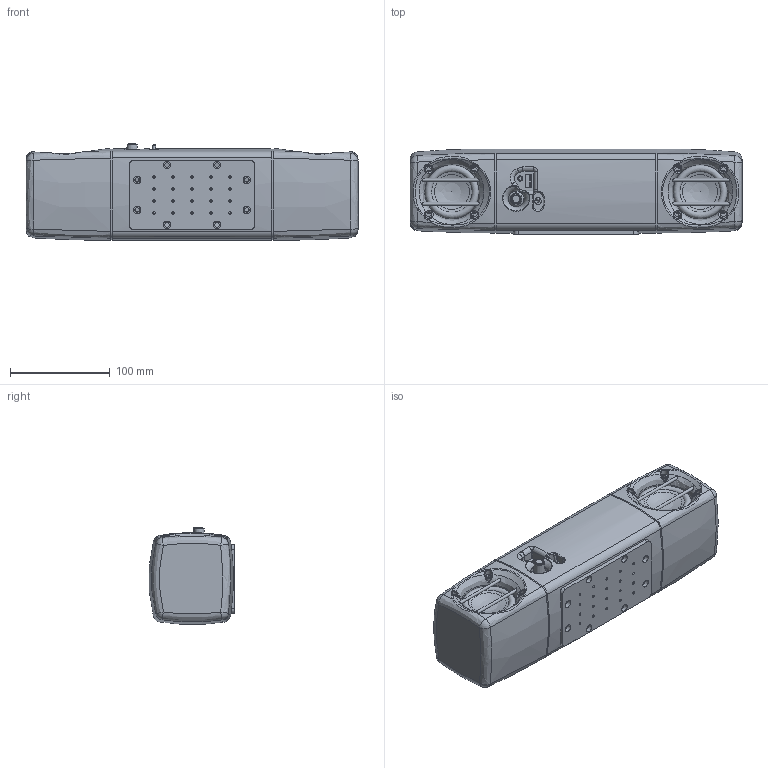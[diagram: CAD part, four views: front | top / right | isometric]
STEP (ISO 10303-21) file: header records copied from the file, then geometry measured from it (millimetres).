
FILE_DESCRIPTION(/* description */ (''),/* implementation_level */ '2;1');
FILE_NAME(/* name */ 'C:/Users/eetus/OneDrive/Tiedostot/Fusion 360 tiedostot 2.0/Mini speaker files/Mini speaker assembly.step',/* time_stamp */ '2021-01-24T18:22:37+02:00',/* author */ (''),/* organization */ (''),/* preprocessor_version */ 'ST-DEVELOPER v18.1',/* originating_system */ 'Autodesk Translation Framework v9.7.1.1290',/* authorisation */ '');
FILE_SCHEMA (('AUTOMOTIVE_DESIGN { 1 0 10303 214 3 1 1 }'));
Products named in the file (14): Mini speaker; ND65-8 speaker; Speaker end enclosure; Speaker end enclosure(Mirror); seal plate; Mid enclosure; seal plate(Mirror); Guard beam; Bottom plate; Amplifier holder; OEP30Wx2 BT board; Knob; mockup switch 100SP1T1B1M1QEH; M4x15 screw
Assembly tree (24 placements, depth 3):
  Mini speaker
    ND65-8 speaker  x2
    Speaker end enclosure
    Speaker end enclosure(Mirror)
    seal plate
    Mid enclosure
    seal plate(Mirror)
    Guard beam  x4
    Bottom plate
    Amplifier holder
    OEP30Wx2 BT board
      Knob
    mockup switch 100SP1T1B1M1QEH
    M4x15 screw  x8
Bounding box: 332.7 x 85.81 x 96.92 mm (x, y, z)
Volume: 766693.8 mm3; surface area: 334030.1 mm2
Topology: 29 solids, 29 shells, 1550 faces, 3815 edges, 2385 vertices
Faces by surface type: plane 570, cylinder 440, bspline 386, torus 133, sphere 15, cone 6
Full cylindrical faces by diameter (mm): 2 x7, 2.5 x20, 3 x4, 3.2 x10, 3.5 x10, 3.7 x2, 3.908 x8, 4.2 x16, 4.3 x32, 4.5 x16, 4.9 x1, 5.2 x1, 6 x2, 6.287 x1, 6.5 x3, 6.6 x1, 6.9 x8, 7 x1, 7.2 x1, 7.7 x16, 8.1 x1, 10 x1, 15.6 x1, 16.5 x1, 35.5 x2, 41 x2, 54 x4, 55 x2
Entity records: 56204 total; most frequent: CARTESIAN_POINT 25111, ORIENTED_EDGE 6670, DIRECTION 5699, EDGE_CURVE 3335, AXIS2_PLACEMENT_3D 2231, VERTEX_POINT 2097, EDGE_LOOP 1624, FACE_OUTER_BOUND 1342
